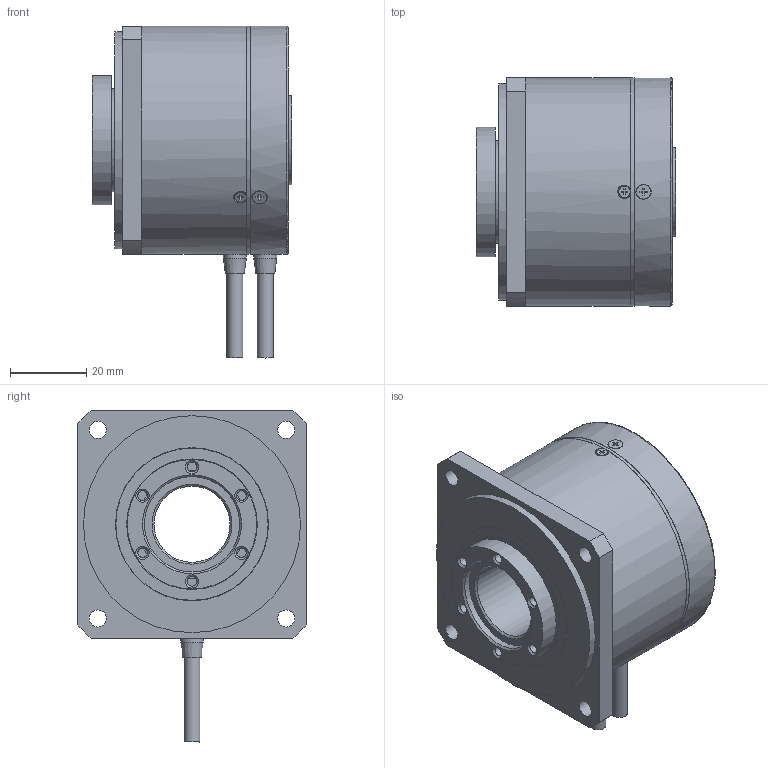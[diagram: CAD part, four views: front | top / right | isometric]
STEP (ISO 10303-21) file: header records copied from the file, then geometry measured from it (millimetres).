
FILE_DESCRIPTION(('STEP AP242'),'1');
FILE_NAME('MDH-6018.stp','2020-04-17T07:05:36',(' '),(' '),'Spatial InterOp 3D',' ',' ');
FILE_SCHEMA(('AP242_MANAGED_MODEL_BASED_3D_ENGINEERING_MIM_LF {1 0 10303 442 1 1 4}'));
Length unit declared in the file: millimetre
Products named in the file (15): MDH-6018; 033279; 041976; 018110; 041977; 018217; 012833; 042520; 041708; 042220; 040052; 040552
Assembly tree (24 placements, depth 3):
  MDH-6018
    033279  x5
    041976
      041976
      041976
    018110  x3
    041977
      041976
      041976
    018217  x3
    012833
    042520
    041708  x2
    042220
    040052
    040552
Bounding box: 52.5 x 60 x 87.2 mm (x, y, z)
Volume: 49130.3 mm3; surface area: 52328.1 mm2
Topology: 22 solids, 22 shells, 455 faces, 1097 edges, 715 vertices
Faces by surface type: plane 286, cylinder 114, cone 40, torus 12, sphere 3
Full cylindrical faces by diameter (mm): 1.6 x11, 1.7 x3, 2 x11, 2.5 x6, 3 x3, 3.8 x5, 4 x5, 4.2 x2, 4.4 x2, 4.5 x4, 6 x2, 20 x1, 23.35 x2, 23.4 x1, 23.6 x1, 25 x5, 27 x1, 28.4 x4, 33 x2, 34 x1, 34.3 x4, 34.5 x1, 37 x4, 39 x1, 40 x2, 40.2 x2, 55 x1, 56 x1, 57 x1, 58 x1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
Entity records: 11974 total; most frequent: CARTESIAN_POINT 2292, DIRECTION 1390, ORIENTED_EDGE 1106, AXIS2_PLACEMENT_3D 556, EDGE_CURVE 553, EDGE_LOOP 484, VERTEX_POINT 422, FACE_OUTER_BOUND 370
